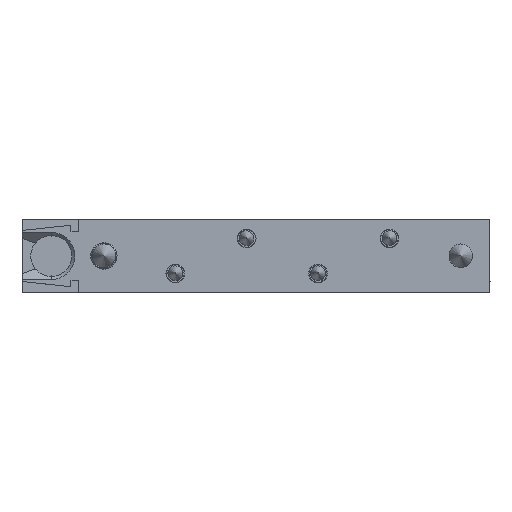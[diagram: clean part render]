
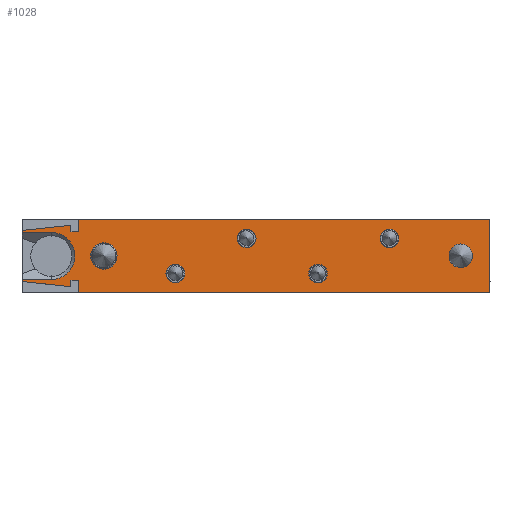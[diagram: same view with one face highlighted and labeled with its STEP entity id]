
A CAD part, top view. The second image highlights one B-rep face of the part: STEP entity #1028.
In plain terms, the highlighted planar face has unit normal (0, 0, 1) as drawn and (0, 0, -1) by its records, which use the part's own axes.
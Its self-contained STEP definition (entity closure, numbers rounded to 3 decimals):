
#132=CIRCLE('',#1166,3.2);
#133=CIRCLE('',#1167,3.2);
#134=CIRCLE('',#1168,3.2);
#135=CIRCLE('',#1169,3.2);
#136=CIRCLE('',#1170,4.5);
#137=CIRCLE('',#1171,4.);
#138=CIRCLE('',#1172,8.05);
#192=ORIENTED_EDGE('',*,*,#418,.T.);
#193=ORIENTED_EDGE('',*,*,#419,.T.);
#194=ORIENTED_EDGE('',*,*,#420,.T.);
#195=ORIENTED_EDGE('',*,*,#421,.T.);
#196=ORIENTED_EDGE('',*,*,#422,.T.);
#197=ORIENTED_EDGE('',*,*,#423,.T.);
#198=ORIENTED_EDGE('',*,*,#424,.T.);
#199=ORIENTED_EDGE('',*,*,#425,.T.);
#200=ORIENTED_EDGE('',*,*,#413,.F.);
#201=ORIENTED_EDGE('',*,*,#426,.F.);
#202=ORIENTED_EDGE('',*,*,#427,.F.);
#203=ORIENTED_EDGE('',*,*,#428,.F.);
#204=ORIENTED_EDGE('',*,*,#429,.F.);
#205=ORIENTED_EDGE('',*,*,#430,.F.);
#206=ORIENTED_EDGE('',*,*,#431,.F.);
#207=ORIENTED_EDGE('',*,*,#432,.F.);
#208=ORIENTED_EDGE('',*,*,#433,.T.);
#209=ORIENTED_EDGE('',*,*,#434,.T.);
#210=ORIENTED_EDGE('',*,*,#435,.T.);
#211=ORIENTED_EDGE('',*,*,#436,.T.);
#212=ORIENTED_EDGE('',*,*,#437,.F.);
#213=ORIENTED_EDGE('',*,*,#438,.T.);
#413=EDGE_CURVE('',#526,#527,#620,.T.);
#418=EDGE_CURVE('',#531,#531,#132,.T.);
#419=EDGE_CURVE('',#532,#532,#133,.T.);
#420=EDGE_CURVE('',#533,#533,#134,.T.);
#421=EDGE_CURVE('',#534,#534,#135,.T.);
#422=EDGE_CURVE('',#535,#535,#136,.T.);
#423=EDGE_CURVE('',#536,#536,#137,.T.);
#424=EDGE_CURVE('',#537,#538,#138,.T.);
#425=EDGE_CURVE('',#538,#527,#625,.T.);
#426=EDGE_CURVE('',#539,#526,#626,.T.);
#427=EDGE_CURVE('',#540,#539,#627,.T.);
#428=EDGE_CURVE('',#541,#540,#628,.T.);
#429=EDGE_CURVE('',#542,#541,#629,.T.);
#430=EDGE_CURVE('',#543,#542,#630,.T.);
#431=EDGE_CURVE('',#544,#543,#631,.T.);
#432=EDGE_CURVE('',#545,#544,#632,.T.);
#433=EDGE_CURVE('',#545,#546,#633,.T.);
#434=EDGE_CURVE('',#546,#547,#634,.T.);
#435=EDGE_CURVE('',#547,#548,#635,.T.);
#436=EDGE_CURVE('',#548,#549,#636,.T.);
#437=EDGE_CURVE('',#550,#549,#637,.T.);
#438=EDGE_CURVE('',#550,#537,#638,.T.);
#526=VERTEX_POINT('',#1659);
#527=VERTEX_POINT('',#1660);
#531=VERTEX_POINT('',#1670);
#532=VERTEX_POINT('',#1672);
#533=VERTEX_POINT('',#1674);
#534=VERTEX_POINT('',#1676);
#535=VERTEX_POINT('',#1678);
#536=VERTEX_POINT('',#1680);
#537=VERTEX_POINT('',#1682);
#538=VERTEX_POINT('',#1683);
#539=VERTEX_POINT('',#1686);
#540=VERTEX_POINT('',#1688);
#541=VERTEX_POINT('',#1690);
#542=VERTEX_POINT('',#1692);
#543=VERTEX_POINT('',#1694);
#544=VERTEX_POINT('',#1696);
#545=VERTEX_POINT('',#1698);
#546=VERTEX_POINT('',#1700);
#547=VERTEX_POINT('',#1702);
#548=VERTEX_POINT('',#1704);
#549=VERTEX_POINT('',#1706);
#550=VERTEX_POINT('',#1708);
#620=LINE('',#1658,#678);
#625=LINE('',#1684,#683);
#626=LINE('',#1685,#684);
#627=LINE('',#1687,#685);
#628=LINE('',#1689,#686);
#629=LINE('',#1691,#687);
#630=LINE('',#1693,#688);
#631=LINE('',#1695,#689);
#632=LINE('',#1697,#690);
#633=LINE('',#1699,#691);
#634=LINE('',#1701,#692);
#635=LINE('',#1703,#693);
#636=LINE('',#1705,#694);
#637=LINE('',#1707,#695);
#638=LINE('',#1709,#696);
#678=VECTOR('',#1312,1000.);
#683=VECTOR('',#1333,1000.);
#684=VECTOR('',#1334,1000.);
#685=VECTOR('',#1335,1000.);
#686=VECTOR('',#1336,1000.);
#687=VECTOR('',#1337,1000.);
#688=VECTOR('',#1338,1000.);
#689=VECTOR('',#1339,1000.);
#690=VECTOR('',#1340,1000.);
#691=VECTOR('',#1341,1000.);
#692=VECTOR('',#1342,1000.);
#693=VECTOR('',#1343,1000.);
#694=VECTOR('',#1344,1000.);
#695=VECTOR('',#1345,1000.);
#696=VECTOR('',#1346,1000.);
#737=EDGE_LOOP('',(#192));
#738=EDGE_LOOP('',(#193));
#739=EDGE_LOOP('',(#194));
#740=EDGE_LOOP('',(#195));
#741=EDGE_LOOP('',(#196));
#742=EDGE_LOOP('',(#197));
#743=EDGE_LOOP('',(#198,#199,#200,#201,#202,#203,#204,#205,#206,#207,#208,
#209,#210,#211,#212,#213));
#864=FACE_BOUND('',#737,.T.);
#865=FACE_BOUND('',#738,.T.);
#866=FACE_BOUND('',#739,.T.);
#867=FACE_BOUND('',#740,.T.);
#868=FACE_BOUND('',#741,.T.);
#869=FACE_BOUND('',#742,.T.);
#870=FACE_BOUND('',#743,.T.);
#993=PLANE('',#1165);
#1028=ADVANCED_FACE('',(#864,#865,#866,#867,#868,#869,#870),#993,.F.);
#1165=AXIS2_PLACEMENT_3D('',#1668,#1317,#1318);
#1166=AXIS2_PLACEMENT_3D('',#1669,#1319,#1320);
#1167=AXIS2_PLACEMENT_3D('',#1671,#1321,#1322);
#1168=AXIS2_PLACEMENT_3D('',#1673,#1323,#1324);
#1169=AXIS2_PLACEMENT_3D('',#1675,#1325,#1326);
#1170=AXIS2_PLACEMENT_3D('',#1677,#1327,#1328);
#1171=AXIS2_PLACEMENT_3D('',#1679,#1329,#1330);
#1172=AXIS2_PLACEMENT_3D('',#1681,#1331,#1332);
#1312=DIRECTION('',(0.,1.,0.));
#1317=DIRECTION('',(0.,0.,1.));
#1318=DIRECTION('',(1.,0.,0.));
#1319=DIRECTION('',(0.,0.,1.));
#1320=DIRECTION('',(1.,0.,0.));
#1321=DIRECTION('',(0.,0.,1.));
#1322=DIRECTION('',(1.,0.,0.));
#1323=DIRECTION('',(0.,0.,1.));
#1324=DIRECTION('',(1.,0.,0.));
#1325=DIRECTION('',(0.,0.,1.));
#1326=DIRECTION('',(1.,0.,0.));
#1327=DIRECTION('',(0.,0.,1.));
#1328=DIRECTION('',(1.,0.,0.));
#1329=DIRECTION('',(0.,0.,1.));
#1330=DIRECTION('',(1.,0.,0.));
#1331=DIRECTION('',(0.,0.,1.));
#1332=DIRECTION('',(1.,0.,0.));
#1333=DIRECTION('',(1.,0.,0.));
#1334=DIRECTION('',(0.995,0.105,0.));
#1335=DIRECTION('',(0.,-1.,0.));
#1336=DIRECTION('',(1.,0.,0.));
#1337=DIRECTION('',(0.,1.,0.));
#1338=DIRECTION('',(1.,0.,0.));
#1339=DIRECTION('',(0.,-1.,0.));
#1340=DIRECTION('',(-1.,0.,0.));
#1341=DIRECTION('',(0.,-1.,0.));
#1342=DIRECTION('',(1.,0.,0.));
#1343=DIRECTION('',(0.,1.,0.));
#1344=DIRECTION('',(0.995,-0.105,0.));
#1345=DIRECTION('',(0.,1.,0.));
#1346=DIRECTION('',(-1.,0.,0.));
#1658=CARTESIAN_POINT('',(80.,-12.5,-5.));
#1659=CARTESIAN_POINT('',(80.,-8.74,-5.));
#1660=CARTESIAN_POINT('',(80.,-8.05,-5.));
#1668=CARTESIAN_POINT('',(-80.,12.5,-5.));
#1669=CARTESIAN_POINT('',(-45.6,6.,-5.));
#1670=CARTESIAN_POINT('',(-42.4,6.,-5.));
#1671=CARTESIAN_POINT('',(-21.2,-6.,-5.));
#1672=CARTESIAN_POINT('',(-18.,-6.,-5.));
#1673=CARTESIAN_POINT('',(3.2,6.,-5.));
#1674=CARTESIAN_POINT('',(6.4,6.,-5.));
#1675=CARTESIAN_POINT('',(27.6,-6.,-5.));
#1676=CARTESIAN_POINT('',(30.8,-6.,-5.));
#1677=CARTESIAN_POINT('',(52.,0.,-5.));
#1678=CARTESIAN_POINT('',(56.5,0.,-5.));
#1679=CARTESIAN_POINT('',(-70.,0.,-5.));
#1680=CARTESIAN_POINT('',(-66.,0.,-5.));
#1681=CARTESIAN_POINT('',(70.,0.,-5.));
#1682=CARTESIAN_POINT('',(70.,8.05,-5.));
#1683=CARTESIAN_POINT('',(70.,-8.05,-5.));
#1684=CARTESIAN_POINT('',(76.,-8.05,-5.));
#1685=CARTESIAN_POINT('',(-76.044,-25.14,-5.));
#1686=CARTESIAN_POINT('',(63.25,-10.5,-5.));
#1687=CARTESIAN_POINT('',(63.25,12.5,-5.));
#1688=CARTESIAN_POINT('',(63.25,-8.25,-5.));
#1689=CARTESIAN_POINT('',(-80.,-8.25,-5.));
#1690=CARTESIAN_POINT('',(60.75,-8.25,-5.));
#1691=CARTESIAN_POINT('',(60.75,12.5,-5.));
#1692=CARTESIAN_POINT('',(60.75,-12.5,-5.));
#1693=CARTESIAN_POINT('',(-80.,-12.5,-5.));
#1694=CARTESIAN_POINT('',(-80.,-12.5,-5.));
#1695=CARTESIAN_POINT('',(-80.,12.5,-5.));
#1696=CARTESIAN_POINT('',(-80.,12.5,-5.));
#1697=CARTESIAN_POINT('',(80.,12.5,-5.));
#1698=CARTESIAN_POINT('',(60.75,12.5,-5.));
#1699=CARTESIAN_POINT('',(60.75,12.5,-5.));
#1700=CARTESIAN_POINT('',(60.75,8.25,-5.));
#1701=CARTESIAN_POINT('',(-80.,8.25,-5.));
#1702=CARTESIAN_POINT('',(63.25,8.25,-5.));
#1703=CARTESIAN_POINT('',(63.25,12.5,-5.));
#1704=CARTESIAN_POINT('',(63.25,10.5,-5.));
#1705=CARTESIAN_POINT('',(-78.643,25.414,-5.));
#1706=CARTESIAN_POINT('',(80.,8.74,-5.));
#1707=CARTESIAN_POINT('',(80.,-12.5,-5.));
#1708=CARTESIAN_POINT('',(80.,8.05,-5.));
#1709=CARTESIAN_POINT('',(70.,8.05,-5.));
